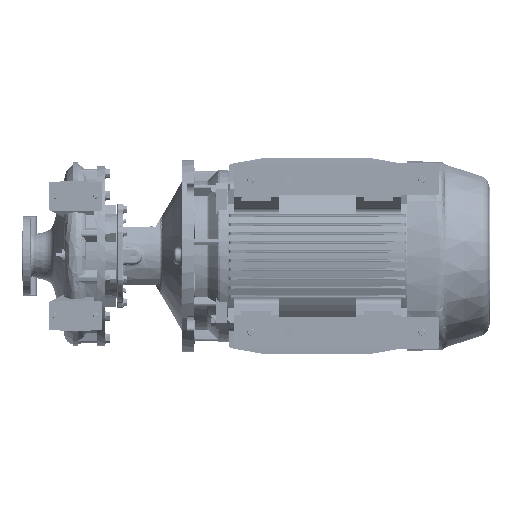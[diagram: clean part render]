
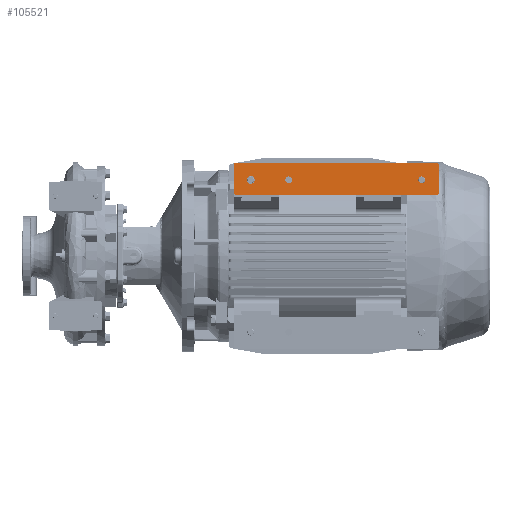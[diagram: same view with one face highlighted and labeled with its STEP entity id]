
A CAD part, front view. The second image highlights one B-rep face of the part: STEP entity #105521.
In plain terms, the highlighted planar face has unit normal (0, -1, 0).
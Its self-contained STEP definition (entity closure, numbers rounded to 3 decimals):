
#277 = CARTESIAN_POINT ( 'NONE',  ( 0., 0., -480. ) ) ;
#1414 = CARTESIAN_POINT ( 'NONE',  ( 0., 0., -480. ) ) ;
#2177 = VERTEX_POINT ( 'NONE', #141953 ) ;
#2264 = LINE ( 'NONE', #145625, #7978 ) ;
#2319 = DIRECTION ( 'NONE',  ( 0., 0., -1. ) ) ;
#2378 = VERTEX_POINT ( 'NONE', #14165 ) ;
#3079 = AXIS2_PLACEMENT_3D ( 'NONE', #99411, #152098, #139113 ) ;
#3356 = LINE ( 'NONE', #55968, #31122 ) ;
#4783 = VERTEX_POINT ( 'NONE', #123601 ) ;
#5623 = FACE_OUTER_BOUND ( 'NONE', #56589, .T. ) ;
#6273 = CARTESIAN_POINT ( 'NONE',  ( 69., 0., -474. ) ) ;
#7041 = EDGE_CURVE ( 'NONE', #35601, #20865, #76978, .T. ) ;
#7978 = VECTOR ( 'NONE', #161125, 1000. ) ;
#9236 = EDGE_CURVE ( 'NONE', #32012, #4783, #77682, .T. ) ;
#9653 = ORIENTED_EDGE ( 'NONE', *, *, #54449, .T. ) ;
#9803 = CARTESIAN_POINT ( 'NONE',  ( 6., 0., -474. ) ) ;
#11474 = EDGE_LOOP ( 'NONE', ( #126754, #26248 ) ) ;
#11525 = DIRECTION ( 'NONE',  ( 0., -1., 0. ) ) ;
#12810 = DIRECTION ( 'NONE',  ( 0., 1., 0. ) ) ;
#14142 = CARTESIAN_POINT ( 'NONE',  ( 40., 0., -440. ) ) ;
#14165 = CARTESIAN_POINT ( 'NONE',  ( 6., 0., 0. ) ) ;
#18767 = AXIS2_PLACEMENT_3D ( 'NONE', #117306, #12810, #93112 ) ;
#19067 = ORIENTED_EDGE ( 'NONE', *, *, #28981, .T. ) ;
#19339 = DIRECTION ( 'NONE',  ( 0., 1., 0. ) ) ;
#20602 = CARTESIAN_POINT ( 'NONE',  ( 40., 0., -431. ) ) ;
#20865 = VERTEX_POINT ( 'NONE', #124850 ) ;
#21076 = CIRCLE ( 'NONE', #59611, 9. ) ;
#21086 = DIRECTION ( 'NONE',  ( 0., -1., 0. ) ) ;
#21325 = LINE ( 'NONE', #1414, #68139 ) ;
#23305 = CARTESIAN_POINT ( 'NONE',  ( 0., 0., -474. ) ) ;
#23631 = DIRECTION ( 'NONE',  ( 0., 0., -1. ) ) ;
#24743 = DIRECTION ( 'NONE',  ( 1., 0., 0. ) ) ;
#26144 = LINE ( 'NONE', #277, #59803 ) ;
#26248 = ORIENTED_EDGE ( 'NONE', *, *, #81462, .T. ) ;
#28419 = EDGE_CURVE ( 'NONE', #35601, #93353, #26144, .T. ) ;
#28981 = EDGE_CURVE ( 'NONE', #123019, #78309, #80181, .T. ) ;
#31122 = VECTOR ( 'NONE', #106981, 1000. ) ;
#31311 = DIRECTION ( 'NONE',  ( 0., -1., 0. ) ) ;
#31502 = FACE_BOUND ( 'NONE', #168145, .T. ) ;
#32012 = VERTEX_POINT ( 'NONE', #107919 ) ;
#35601 = VERTEX_POINT ( 'NONE', #23305 ) ;
#38150 = AXIS2_PLACEMENT_3D ( 'NONE', #97979, #21086, #23631 ) ;
#38415 = AXIS2_PLACEMENT_3D ( 'NONE', #9803, #11525, #75399 ) ;
#41066 = EDGE_CURVE ( 'NONE', #2177, #119034, #21076, .T. ) ;
#41311 = ORIENTED_EDGE ( 'NONE', *, *, #111390, .T. ) ;
#41627 = CARTESIAN_POINT ( 'NONE',  ( 75., 0., -474. ) ) ;
#42764 = FACE_BOUND ( 'NONE', #141898, .T. ) ;
#45102 = DIRECTION ( 'NONE',  ( 0., 0., -1. ) ) ;
#45229 = DIRECTION ( 'NONE',  ( 0., 0., -1. ) ) ;
#45293 = PLANE ( 'NONE',  #38150 ) ;
#45430 = ORIENTED_EDGE ( 'NONE', *, *, #165034, .T. ) ;
#48978 = EDGE_CURVE ( 'NONE', #2378, #93353, #147759, .T. ) ;
#49839 = CIRCLE ( 'NONE', #3079, 9. ) ;
#54449 = EDGE_CURVE ( 'NONE', #150533, #170635, #129084, .T. ) ;
#55492 = DIRECTION ( 'NONE',  ( 0., 0., -1. ) ) ;
#55968 = CARTESIAN_POINT ( 'NONE',  ( 0., 0., 0. ) ) ;
#56589 = EDGE_LOOP ( 'NONE', ( #83535, #92085, #84901, #165415, #138719, #45430, #132470, #19067 ) ) ;
#59611 = AXIS2_PLACEMENT_3D ( 'NONE', #14142, #156616, #80606 ) ;
#59803 = VECTOR ( 'NONE', #92637, 1000. ) ;
#60709 = CARTESIAN_POINT ( 'NONE',  ( 40., 0., -40. ) ) ;
#62535 = DIRECTION ( 'NONE',  ( 0., 0., -1. ) ) ;
#65091 = CARTESIAN_POINT ( 'NONE',  ( 69., 0., -480. ) ) ;
#68139 = VECTOR ( 'NONE', #24743, 1000. ) ;
#68683 = EDGE_CURVE ( 'NONE', #141937, #123019, #2264, .T. ) ;
#70110 = DIRECTION ( 'NONE',  ( 0., -1., 0. ) ) ;
#70126 = CARTESIAN_POINT ( 'NONE',  ( 0., 0., -6. ) ) ;
#73239 = AXIS2_PLACEMENT_3D ( 'NONE', #96384, #87628, #62535 ) ;
#74815 = VERTEX_POINT ( 'NONE', #65091 ) ;
#75399 = DIRECTION ( 'NONE',  ( 0., 0., -1. ) ) ;
#75779 = AXIS2_PLACEMENT_3D ( 'NONE', #141408, #168204, #125926 ) ;
#76010 = EDGE_CURVE ( 'NONE', #2378, #78309, #3356, .T. ) ;
#76958 = CARTESIAN_POINT ( 'NONE',  ( 69., 0., 0. ) ) ;
#76978 = CIRCLE ( 'NONE', #38415, 6. ) ;
#77682 = CIRCLE ( 'NONE', #99762, 8. ) ;
#78309 = VERTEX_POINT ( 'NONE', #76958 ) ;
#80181 = CIRCLE ( 'NONE', #132605, 6. ) ;
#80606 = DIRECTION ( 'NONE',  ( 0., 0., -1. ) ) ;
#81462 = EDGE_CURVE ( 'NONE', #4783, #32012, #158560, .T. ) ;
#81711 = CIRCLE ( 'NONE', #169997, 6. ) ;
#83535 = ORIENTED_EDGE ( 'NONE', *, *, #76010, .F. ) ;
#84901 = ORIENTED_EDGE ( 'NONE', *, *, #28419, .F. ) ;
#87628 = DIRECTION ( 'NONE',  ( 0., -1., 0. ) ) ;
#92085 = ORIENTED_EDGE ( 'NONE', *, *, #48978, .T. ) ;
#92637 = DIRECTION ( 'NONE',  ( 0., 0., 1. ) ) ;
#93112 = DIRECTION ( 'NONE',  ( 0., 0., -1. ) ) ;
#93353 = VERTEX_POINT ( 'NONE', #70126 ) ;
#96384 = CARTESIAN_POINT ( 'NONE',  ( 6., 0., -6. ) ) ;
#97979 = CARTESIAN_POINT ( 'NONE',  ( 0., 0., -480. ) ) ;
#99411 = CARTESIAN_POINT ( 'NONE',  ( 40., 0., -440. ) ) ;
#99762 = AXIS2_PLACEMENT_3D ( 'NONE', #118943, #161179, #2319 ) ;
#105521 = ADVANCED_FACE ( 'NONE', ( #42764, #149830, #31502, #5623 ), #45293, .T. ) ;
#106981 = DIRECTION ( 'NONE',  ( 1., 0., 0. ) ) ;
#107919 = CARTESIAN_POINT ( 'NONE',  ( 40., 0., -343. ) ) ;
#111390 = EDGE_CURVE ( 'NONE', #119034, #2177, #49839, .T. ) ;
#117306 = CARTESIAN_POINT ( 'NONE',  ( 40., 0., -40. ) ) ;
#118943 = CARTESIAN_POINT ( 'NONE',  ( 40., 0., -351. ) ) ;
#119034 = VERTEX_POINT ( 'NONE', #20602 ) ;
#123019 = VERTEX_POINT ( 'NONE', #123178 ) ;
#123178 = CARTESIAN_POINT ( 'NONE',  ( 75., 0., -6. ) ) ;
#123601 = CARTESIAN_POINT ( 'NONE',  ( 40., 0., -359. ) ) ;
#123884 = CARTESIAN_POINT ( 'NONE',  ( 40., 0., -32. ) ) ;
#124850 = CARTESIAN_POINT ( 'NONE',  ( 6., 0., -480. ) ) ;
#125926 = DIRECTION ( 'NONE',  ( 0., 0., -1. ) ) ;
#126272 = CIRCLE ( 'NONE', #18767, 8. ) ;
#126754 = ORIENTED_EDGE ( 'NONE', *, *, #9236, .T. ) ;
#129084 = CIRCLE ( 'NONE', #148481, 8. ) ;
#132470 = ORIENTED_EDGE ( 'NONE', *, *, #68683, .T. ) ;
#132605 = AXIS2_PLACEMENT_3D ( 'NONE', #133253, #70110, #55492 ) ;
#133253 = CARTESIAN_POINT ( 'NONE',  ( 69., 0., -6. ) ) ;
#133474 = ORIENTED_EDGE ( 'NONE', *, *, #136558, .T. ) ;
#136558 = EDGE_CURVE ( 'NONE', #170635, #150533, #126272, .T. ) ;
#138719 = ORIENTED_EDGE ( 'NONE', *, *, #165988, .T. ) ;
#139113 = DIRECTION ( 'NONE',  ( 0., 0., -1. ) ) ;
#141408 = CARTESIAN_POINT ( 'NONE',  ( 40., 0., -351. ) ) ;
#141451 = CARTESIAN_POINT ( 'NONE',  ( 40., 0., -48. ) ) ;
#141898 = EDGE_LOOP ( 'NONE', ( #133474, #9653 ) ) ;
#141937 = VERTEX_POINT ( 'NONE', #41627 ) ;
#141953 = CARTESIAN_POINT ( 'NONE',  ( 40., 0., -449. ) ) ;
#145625 = CARTESIAN_POINT ( 'NONE',  ( 75., 0., -480. ) ) ;
#147759 = CIRCLE ( 'NONE', #73239, 6. ) ;
#148481 = AXIS2_PLACEMENT_3D ( 'NONE', #60709, #19339, #45229 ) ;
#149830 = FACE_BOUND ( 'NONE', #11474, .T. ) ;
#150533 = VERTEX_POINT ( 'NONE', #141451 ) ;
#152098 = DIRECTION ( 'NONE',  ( 0., 1., 0. ) ) ;
#156616 = DIRECTION ( 'NONE',  ( 0., 1., 0. ) ) ;
#158560 = CIRCLE ( 'NONE', #75779, 8. ) ;
#161125 = DIRECTION ( 'NONE',  ( 0., 0., 1. ) ) ;
#161179 = DIRECTION ( 'NONE',  ( 0., 1., 0. ) ) ;
#165034 = EDGE_CURVE ( 'NONE', #74815, #141937, #81711, .T. ) ;
#165415 = ORIENTED_EDGE ( 'NONE', *, *, #7041, .T. ) ;
#165988 = EDGE_CURVE ( 'NONE', #20865, #74815, #21325, .T. ) ;
#168145 = EDGE_LOOP ( 'NONE', ( #41311, #170668 ) ) ;
#168204 = DIRECTION ( 'NONE',  ( 0., 1., 0. ) ) ;
#169997 = AXIS2_PLACEMENT_3D ( 'NONE', #6273, #31311, #45102 ) ;
#170635 = VERTEX_POINT ( 'NONE', #123884 ) ;
#170668 = ORIENTED_EDGE ( 'NONE', *, *, #41066, .T. ) ;
